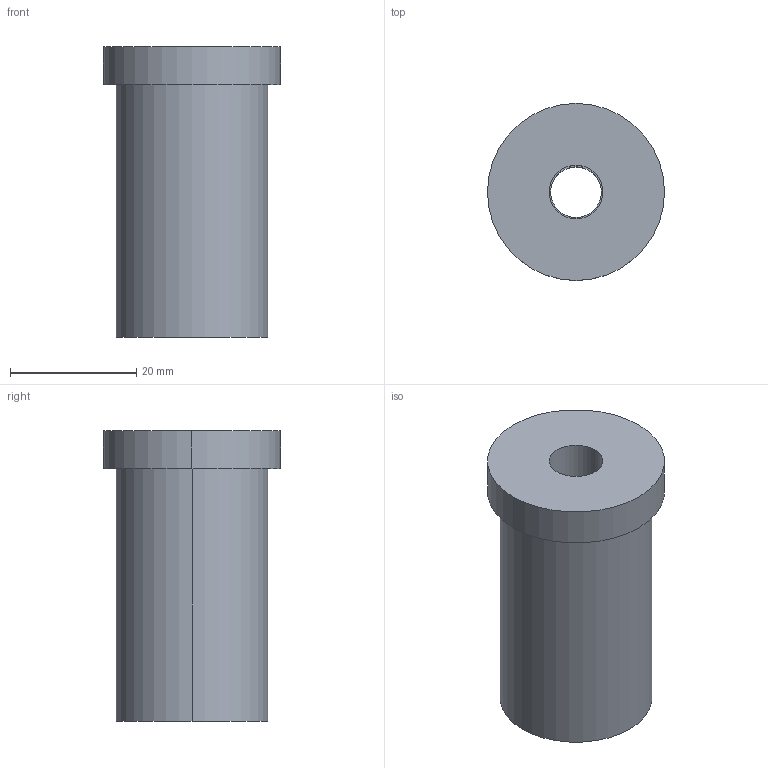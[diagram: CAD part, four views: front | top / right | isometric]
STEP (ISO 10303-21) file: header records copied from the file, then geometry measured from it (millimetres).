
FILE_DESCRIPTION (( 'STEP AP214' ), '1' );
FILE_NAME ('BR53-24x46.STEP', '2020-01-30T11:33:33', ( 'August' ), ( '' ), 'SwSTEP 2.0', 'SolidWorks 2018', '' );
FILE_SCHEMA (( 'AUTOMOTIVE_DESIGN' ));
Length unit declared in the file: millimetre
Products named in the file (1): BR53-24x46
Bounding box: 28 x 28 x 46 mm (x, y, z)
Volume: 19257.2 mm3; surface area: 5902.8 mm2
Topology: 1 solids, 1 shells, 17 faces, 34 edges, 22 vertices
Faces by surface type: cylinder 10, plane 5, cone 2
Entity records: 492 total; most frequent: DIRECTION 92, CARTESIAN_POINT 74, ORIENTED_EDGE 68, AXIS2_PLACEMENT_3D 40, EDGE_CURVE 34, CIRCLE 22, EDGE_LOOP 22, VERTEX_POINT 22
